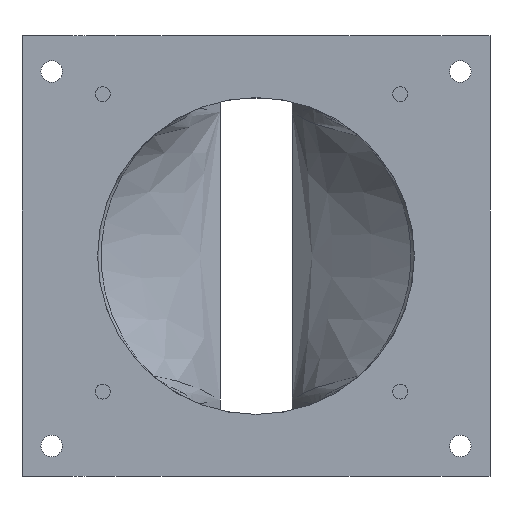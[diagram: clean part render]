
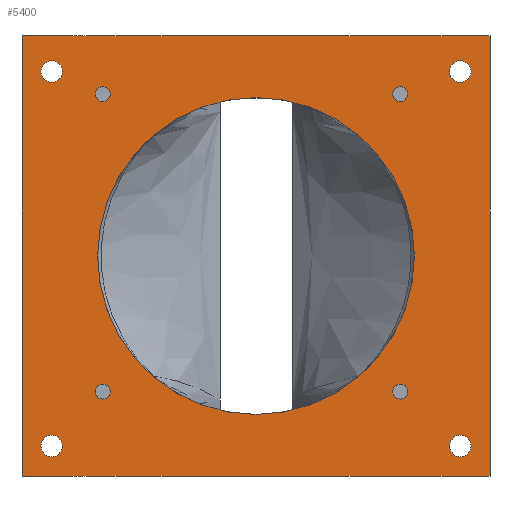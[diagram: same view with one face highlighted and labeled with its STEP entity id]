
A CAD part, front view. The second image highlights one B-rep face of the part: STEP entity #5400.
In plain terms, the highlighted planar face has unit normal (0, -1, 0).
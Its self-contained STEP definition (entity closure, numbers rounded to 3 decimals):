
#196=FACE_BOUND('',#941,.T.);
#197=FACE_BOUND('',#942,.T.);
#198=FACE_BOUND('',#943,.T.);
#199=FACE_BOUND('',#944,.T.);
#200=FACE_BOUND('',#945,.T.);
#201=FACE_BOUND('',#946,.T.);
#202=FACE_BOUND('',#947,.T.);
#203=FACE_BOUND('',#948,.T.);
#204=FACE_BOUND('',#949,.T.);
#392=PLANE('',#5709);
#653=FACE_OUTER_BOUND('',#940,.T.);
#940=EDGE_LOOP('',(#4850,#4851,#4852,#4853));
#941=EDGE_LOOP('',(#4854));
#942=EDGE_LOOP('',(#4855));
#943=EDGE_LOOP('',(#4856));
#944=EDGE_LOOP('',(#4857));
#945=EDGE_LOOP('',(#4858));
#946=EDGE_LOOP('',(#4859));
#947=EDGE_LOOP('',(#4860));
#948=EDGE_LOOP('',(#4861));
#949=EDGE_LOOP('',(#4862));
#1040=LINE('',#7101,#1627);
#1528=LINE('',#8839,#2115);
#1548=LINE('',#9813,#2135);
#1549=LINE('',#9814,#2136);
#1627=VECTOR('',#5883,10.);
#2115=VECTOR('',#6761,10.);
#2135=VECTOR('',#6855,10.);
#2136=VECTOR('',#6856,10.);
#2162=CIRCLE('',#5438,2.063);
#2164=CIRCLE('',#5442,2.062);
#2166=CIRCLE('',#5446,2.063);
#2168=CIRCLE('',#5450,2.063);
#2218=CIRCLE('',#5697,3.);
#2219=CIRCLE('',#5699,3.);
#2221=CIRCLE('',#5703,44.);
#2226=CIRCLE('',#5710,3.);
#2227=CIRCLE('',#5711,3.);
#2241=VERTEX_POINT('',#6958);
#2243=VERTEX_POINT('',#6965);
#2245=VERTEX_POINT('',#6972);
#2247=VERTEX_POINT('',#6979);
#2290=VERTEX_POINT('',#7098);
#2291=VERTEX_POINT('',#7100);
#2670=VERTEX_POINT('',#8838);
#2702=VERTEX_POINT('',#9746);
#2703=VERTEX_POINT('',#9750);
#2705=VERTEX_POINT('',#9758);
#2713=VERTEX_POINT('',#9812);
#2714=VERTEX_POINT('',#9815);
#2715=VERTEX_POINT('',#9817);
#2756=EDGE_CURVE('',#2241,#2241,#2162,.T.);
#2759=EDGE_CURVE('',#2243,#2243,#2164,.T.);
#2762=EDGE_CURVE('',#2245,#2245,#2166,.T.);
#2765=EDGE_CURVE('',#2247,#2247,#2168,.T.);
#2824=EDGE_CURVE('',#2290,#2291,#1040,.T.);
#3397=EDGE_CURVE('',#2291,#2670,#1528,.T.);
#3452=EDGE_CURVE('',#2702,#2702,#2218,.T.);
#3454=EDGE_CURVE('',#2703,#2703,#2219,.T.);
#3457=EDGE_CURVE('',#2705,#2705,#2221,.T.);
#3468=EDGE_CURVE('',#2713,#2290,#1548,.T.);
#3469=EDGE_CURVE('',#2670,#2713,#1549,.T.);
#3470=EDGE_CURVE('',#2714,#2714,#2226,.T.);
#3471=EDGE_CURVE('',#2715,#2715,#2227,.T.);
#4850=ORIENTED_EDGE('',*,*,#2824,.F.);
#4851=ORIENTED_EDGE('',*,*,#3468,.F.);
#4852=ORIENTED_EDGE('',*,*,#3469,.F.);
#4853=ORIENTED_EDGE('',*,*,#3397,.F.);
#4854=ORIENTED_EDGE('',*,*,#2756,.T.);
#4855=ORIENTED_EDGE('',*,*,#2759,.T.);
#4856=ORIENTED_EDGE('',*,*,#2762,.T.);
#4857=ORIENTED_EDGE('',*,*,#2765,.T.);
#4858=ORIENTED_EDGE('',*,*,#3457,.T.);
#4859=ORIENTED_EDGE('',*,*,#3470,.T.);
#4860=ORIENTED_EDGE('',*,*,#3471,.T.);
#4861=ORIENTED_EDGE('',*,*,#3452,.T.);
#4862=ORIENTED_EDGE('',*,*,#3454,.T.);
#5400=ADVANCED_FACE('',(#653,#196,#197,#198,#199,#200,#201,#202,#203,#204),
#392,.F.);
#5438=AXIS2_PLACEMENT_3D('',#6959,#5751,#5752);
#5442=AXIS2_PLACEMENT_3D('',#6966,#5760,#5761);
#5446=AXIS2_PLACEMENT_3D('',#6973,#5769,#5770);
#5450=AXIS2_PLACEMENT_3D('',#6980,#5778,#5779);
#5697=AXIS2_PLACEMENT_3D('',#9748,#6826,#6827);
#5699=AXIS2_PLACEMENT_3D('',#9752,#6831,#6832);
#5703=AXIS2_PLACEMENT_3D('',#9759,#6840,#6841);
#5709=AXIS2_PLACEMENT_3D('',#9811,#6853,#6854);
#5710=AXIS2_PLACEMENT_3D('',#9816,#6857,#6858);
#5711=AXIS2_PLACEMENT_3D('',#9818,#6859,#6860);
#5751=DIRECTION('center_axis',(0.,1.,0.));
#5752=DIRECTION('ref_axis',(1.,0.,0.));
#5760=DIRECTION('center_axis',(0.,1.,0.));
#5761=DIRECTION('ref_axis',(1.,0.,0.));
#5769=DIRECTION('center_axis',(0.,1.,0.));
#5770=DIRECTION('ref_axis',(1.,0.,0.));
#5778=DIRECTION('center_axis',(0.,1.,0.));
#5779=DIRECTION('ref_axis',(1.,0.,0.));
#5883=DIRECTION('',(-1.,0.,0.));
#6761=DIRECTION('',(0.,0.,1.));
#6826=DIRECTION('center_axis',(0.,1.,0.));
#6827=DIRECTION('ref_axis',(-1.,0.,0.));
#6831=DIRECTION('center_axis',(0.,1.,0.));
#6832=DIRECTION('ref_axis',(-1.,0.,0.));
#6840=DIRECTION('center_axis',(0.,1.,0.));
#6841=DIRECTION('ref_axis',(1.,0.,0.));
#6853=DIRECTION('center_axis',(0.,1.,0.));
#6854=DIRECTION('ref_axis',(1.,0.,0.));
#6855=DIRECTION('',(0.,0.,-1.));
#6856=DIRECTION('',(1.,0.,0.));
#6857=DIRECTION('center_axis',(0.,1.,0.));
#6858=DIRECTION('ref_axis',(-1.,0.,0.));
#6859=DIRECTION('center_axis',(0.,1.,0.));
#6860=DIRECTION('ref_axis',(-1.,0.,0.));
#6958=CARTESIAN_POINT('',(26.607,-4.,-148.67));
#6959=CARTESIAN_POINT('Origin',(28.67,-4.,-148.67));
#6965=CARTESIAN_POINT('',(109.268,-4.,-148.67));
#6966=CARTESIAN_POINT('Origin',(111.331,-4.,-148.67));
#6972=CARTESIAN_POINT('',(26.607,-4.,-231.331));
#6973=CARTESIAN_POINT('Origin',(28.67,-4.,-231.331));
#6979=CARTESIAN_POINT('',(109.268,-4.,-231.331));
#6980=CARTESIAN_POINT('Origin',(111.331,-4.,-231.331));
#7098=CARTESIAN_POINT('',(136.25,-4.,-254.775));
#7100=CARTESIAN_POINT('',(6.25,-4.,-254.775));
#7101=CARTESIAN_POINT('',(66.25,-4.,-254.775));
#8838=CARTESIAN_POINT('',(6.25,-4.,-132.525));
#8839=CARTESIAN_POINT('',(6.25,-4.,-168.65));
#9746=CARTESIAN_POINT('',(17.5,-4.,-246.425));
#9748=CARTESIAN_POINT('Origin',(14.5,-4.,-246.425));
#9750=CARTESIAN_POINT('',(17.5,-4.,-142.375));
#9752=CARTESIAN_POINT('Origin',(14.5,-4.,-142.375));
#9758=CARTESIAN_POINT('',(27.25,-4.,-193.65));
#9759=CARTESIAN_POINT('Origin',(71.25,-4.,-193.65));
#9811=CARTESIAN_POINT('Origin',(71.25,-4.,-193.65));
#9812=CARTESIAN_POINT('',(136.25,-4.,-132.525));
#9813=CARTESIAN_POINT('',(136.25,-4.,-218.65));
#9814=CARTESIAN_POINT('',(63.75,-4.,-132.525));
#9815=CARTESIAN_POINT('',(131.,-4.,-142.375));
#9816=CARTESIAN_POINT('Origin',(128.,-4.,-142.375));
#9817=CARTESIAN_POINT('',(131.,-4.,-246.425));
#9818=CARTESIAN_POINT('Origin',(128.,-4.,-246.425));
